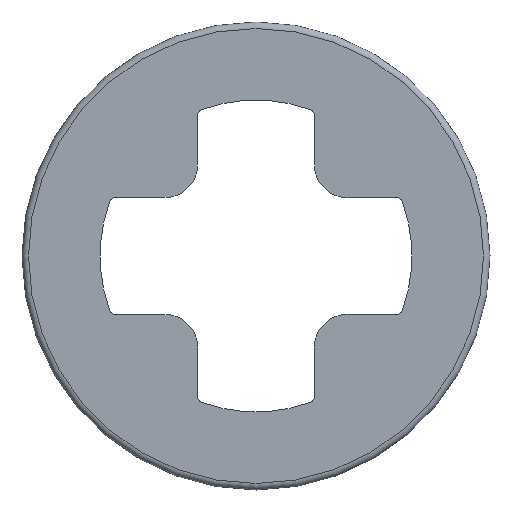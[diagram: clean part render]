
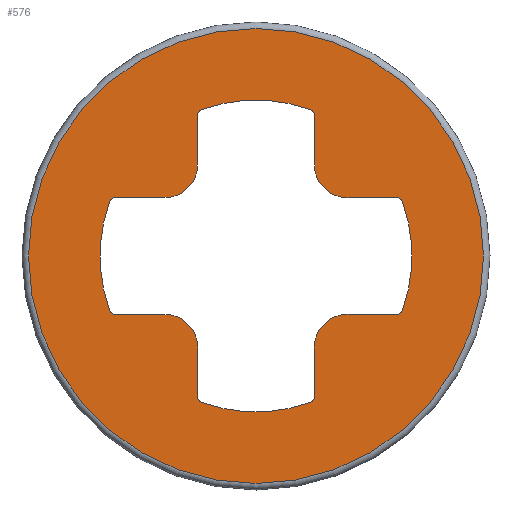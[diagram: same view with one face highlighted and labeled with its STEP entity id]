
A CAD part, front view. The second image highlights one B-rep face of the part: STEP entity #576.
In plain terms, the highlighted planar face has unit normal (0, -1, 0).
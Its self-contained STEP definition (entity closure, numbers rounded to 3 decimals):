
#34=LINE('',#959,#74);
#35=LINE('',#964,#75);
#36=LINE('',#972,#76);
#37=LINE('',#976,#77);
#38=LINE('',#984,#78);
#39=LINE('',#988,#79);
#40=LINE('',#996,#80);
#41=LINE('',#1000,#81);
#74=VECTOR('',#760,1000.);
#75=VECTOR('',#763,1000.);
#76=VECTOR('',#770,1000.);
#77=VECTOR('',#773,1000.);
#78=VECTOR('',#780,1000.);
#79=VECTOR('',#783,1000.);
#80=VECTOR('',#790,1000.);
#81=VECTOR('',#793,1000.);
#107=PLANE('',#645);
#145=ORIENTED_EDGE('',*,*,#309,.T.);
#146=ORIENTED_EDGE('',*,*,#310,.F.);
#147=ORIENTED_EDGE('',*,*,#311,.T.);
#148=ORIENTED_EDGE('',*,*,#312,.F.);
#149=ORIENTED_EDGE('',*,*,#313,.T.);
#150=ORIENTED_EDGE('',*,*,#314,.F.);
#151=ORIENTED_EDGE('',*,*,#315,.T.);
#152=ORIENTED_EDGE('',*,*,#316,.F.);
#153=ORIENTED_EDGE('',*,*,#317,.T.);
#154=ORIENTED_EDGE('',*,*,#318,.F.);
#155=ORIENTED_EDGE('',*,*,#319,.T.);
#156=ORIENTED_EDGE('',*,*,#320,.F.);
#157=ORIENTED_EDGE('',*,*,#321,.T.);
#158=ORIENTED_EDGE('',*,*,#322,.F.);
#159=ORIENTED_EDGE('',*,*,#323,.T.);
#160=ORIENTED_EDGE('',*,*,#324,.F.);
#161=ORIENTED_EDGE('',*,*,#325,.T.);
#162=ORIENTED_EDGE('',*,*,#326,.F.);
#163=ORIENTED_EDGE('',*,*,#327,.T.);
#164=ORIENTED_EDGE('',*,*,#328,.F.);
#165=ORIENTED_EDGE('',*,*,#329,.T.);
#166=ORIENTED_EDGE('',*,*,#330,.F.);
#167=ORIENTED_EDGE('',*,*,#331,.T.);
#168=ORIENTED_EDGE('',*,*,#332,.F.);
#169=ORIENTED_EDGE('',*,*,#333,.T.);
#309=EDGE_CURVE('',#391,#391,#441,.F.);
#310=EDGE_CURVE('',#392,#393,#34,.T.);
#311=EDGE_CURVE('',#392,#394,#442,.F.);
#312=EDGE_CURVE('',#395,#394,#35,.T.);
#313=EDGE_CURVE('',#395,#396,#443,.T.);
#314=EDGE_CURVE('',#397,#396,#444,.T.);
#315=EDGE_CURVE('',#397,#398,#445,.T.);
#316=EDGE_CURVE('',#399,#398,#36,.T.);
#317=EDGE_CURVE('',#399,#400,#446,.F.);
#318=EDGE_CURVE('',#401,#400,#37,.T.);
#319=EDGE_CURVE('',#401,#402,#447,.T.);
#320=EDGE_CURVE('',#403,#402,#448,.T.);
#321=EDGE_CURVE('',#403,#404,#449,.T.);
#322=EDGE_CURVE('',#405,#404,#38,.T.);
#323=EDGE_CURVE('',#405,#406,#450,.F.);
#324=EDGE_CURVE('',#407,#406,#39,.T.);
#325=EDGE_CURVE('',#407,#408,#451,.T.);
#326=EDGE_CURVE('',#409,#408,#452,.T.);
#327=EDGE_CURVE('',#409,#410,#453,.T.);
#328=EDGE_CURVE('',#411,#410,#40,.T.);
#329=EDGE_CURVE('',#411,#412,#454,.F.);
#330=EDGE_CURVE('',#413,#412,#41,.T.);
#331=EDGE_CURVE('',#413,#414,#455,.T.);
#332=EDGE_CURVE('',#415,#414,#456,.T.);
#333=EDGE_CURVE('',#415,#393,#457,.T.);
#391=VERTEX_POINT('',#958);
#392=VERTEX_POINT('',#960);
#393=VERTEX_POINT('',#961);
#394=VERTEX_POINT('',#963);
#395=VERTEX_POINT('',#965);
#396=VERTEX_POINT('',#967);
#397=VERTEX_POINT('',#969);
#398=VERTEX_POINT('',#971);
#399=VERTEX_POINT('',#973);
#400=VERTEX_POINT('',#975);
#401=VERTEX_POINT('',#977);
#402=VERTEX_POINT('',#979);
#403=VERTEX_POINT('',#981);
#404=VERTEX_POINT('',#983);
#405=VERTEX_POINT('',#985);
#406=VERTEX_POINT('',#987);
#407=VERTEX_POINT('',#989);
#408=VERTEX_POINT('',#991);
#409=VERTEX_POINT('',#993);
#410=VERTEX_POINT('',#995);
#411=VERTEX_POINT('',#997);
#412=VERTEX_POINT('',#999);
#413=VERTEX_POINT('',#1001);
#414=VERTEX_POINT('',#1003);
#415=VERTEX_POINT('',#1005);
#441=CIRCLE('',#646,3.5);
#442=CIRCLE('',#647,0.5);
#443=CIRCLE('',#648,0.1);
#444=CIRCLE('',#649,2.4);
#445=CIRCLE('',#650,0.1);
#446=CIRCLE('',#651,0.5);
#447=CIRCLE('',#652,0.1);
#448=CIRCLE('',#653,2.4);
#449=CIRCLE('',#654,0.1);
#450=CIRCLE('',#655,0.5);
#451=CIRCLE('',#656,0.1);
#452=CIRCLE('',#657,2.4);
#453=CIRCLE('',#658,0.1);
#454=CIRCLE('',#659,0.5);
#455=CIRCLE('',#660,0.1);
#456=CIRCLE('',#661,2.4);
#457=CIRCLE('',#662,0.1);
#468=EDGE_LOOP('',(#145));
#469=EDGE_LOOP('',(#146,#147,#148,#149,#150,#151,#152,#153,#154,#155,#156,
#157,#158,#159,#160,#161,#162,#163,#164,#165,#166,#167,#168,#169));
#514=FACE_BOUND('',#468,.T.);
#515=FACE_BOUND('',#469,.T.);
#576=ADVANCED_FACE('',(#514,#515),#107,.F.);
#645=AXIS2_PLACEMENT_3D('',#956,#756,#757);
#646=AXIS2_PLACEMENT_3D('',#957,#758,#759);
#647=AXIS2_PLACEMENT_3D('',#962,#761,#762);
#648=AXIS2_PLACEMENT_3D('',#966,#764,#765);
#649=AXIS2_PLACEMENT_3D('',#968,#766,#767);
#650=AXIS2_PLACEMENT_3D('',#970,#768,#769);
#651=AXIS2_PLACEMENT_3D('',#974,#771,#772);
#652=AXIS2_PLACEMENT_3D('',#978,#774,#775);
#653=AXIS2_PLACEMENT_3D('',#980,#776,#777);
#654=AXIS2_PLACEMENT_3D('',#982,#778,#779);
#655=AXIS2_PLACEMENT_3D('',#986,#781,#782);
#656=AXIS2_PLACEMENT_3D('',#990,#784,#785);
#657=AXIS2_PLACEMENT_3D('',#992,#786,#787);
#658=AXIS2_PLACEMENT_3D('',#994,#788,#789);
#659=AXIS2_PLACEMENT_3D('',#998,#791,#792);
#660=AXIS2_PLACEMENT_3D('',#1002,#794,#795);
#661=AXIS2_PLACEMENT_3D('',#1004,#796,#797);
#662=AXIS2_PLACEMENT_3D('',#1006,#798,#799);
#756=DIRECTION('',(0.,1.,0.));
#757=DIRECTION('',(0.,0.,1.));
#758=DIRECTION('',(0.,1.,0.));
#759=DIRECTION('',(0.,0.,1.));
#760=DIRECTION('',(0.,0.,-1.));
#761=DIRECTION('',(0.,1.,0.));
#762=DIRECTION('',(0.,0.,1.));
#763=DIRECTION('',(1.,0.,0.));
#764=DIRECTION('',(0.,1.,0.));
#765=DIRECTION('',(0.,0.,1.));
#766=DIRECTION('',(0.,-1.,0.));
#767=DIRECTION('',(1.,0.,0.));
#768=DIRECTION('',(0.,1.,0.));
#769=DIRECTION('',(0.,0.,1.));
#770=DIRECTION('',(-1.,0.,0.));
#771=DIRECTION('',(0.,1.,0.));
#772=DIRECTION('',(0.,0.,1.));
#773=DIRECTION('',(0.,0.,-1.));
#774=DIRECTION('',(0.,1.,0.));
#775=DIRECTION('',(0.,0.,1.));
#776=DIRECTION('',(0.,-1.,0.));
#777=DIRECTION('',(1.,0.,0.));
#778=DIRECTION('',(0.,1.,0.));
#779=DIRECTION('',(0.,0.,1.));
#780=DIRECTION('',(0.,0.,1.));
#781=DIRECTION('',(0.,1.,0.));
#782=DIRECTION('',(0.,0.,1.));
#783=DIRECTION('',(-1.,0.,0.));
#784=DIRECTION('',(0.,1.,0.));
#785=DIRECTION('',(0.,0.,1.));
#786=DIRECTION('',(0.,-1.,0.));
#787=DIRECTION('',(-1.,0.,0.));
#788=DIRECTION('',(0.,1.,0.));
#789=DIRECTION('',(0.,0.,1.));
#790=DIRECTION('',(1.,0.,0.));
#791=DIRECTION('',(0.,1.,0.));
#792=DIRECTION('',(0.,0.,1.));
#793=DIRECTION('',(0.,0.,1.));
#794=DIRECTION('',(0.,1.,0.));
#795=DIRECTION('',(0.,0.,1.));
#796=DIRECTION('',(0.,-1.,0.));
#797=DIRECTION('',(1.,0.,0.));
#798=DIRECTION('',(0.,1.,0.));
#799=DIRECTION('',(0.,0.,1.));
#956=CARTESIAN_POINT('',(0.,0.,0.));
#957=CARTESIAN_POINT('',(0.,0.,0.));
#958=CARTESIAN_POINT('',(0.,0.,3.5));
#959=CARTESIAN_POINT('',(-0.9,0.,-0.9));
#960=CARTESIAN_POINT('',(-0.9,0.,-1.4));
#961=CARTESIAN_POINT('',(-0.9,0.,-2.156));
#962=CARTESIAN_POINT('',(-1.4,0.,-1.4));
#963=CARTESIAN_POINT('',(-1.4,0.,-0.9));
#964=CARTESIAN_POINT('',(-2.225,0.,-0.9));
#965=CARTESIAN_POINT('',(-2.156,0.,-0.9));
#966=CARTESIAN_POINT('',(-2.156,0.,-0.8));
#967=CARTESIAN_POINT('',(-2.25,0.,-0.835));
#968=CARTESIAN_POINT('',(0.,0.,0.));
#969=CARTESIAN_POINT('',(-2.25,0.,0.835));
#970=CARTESIAN_POINT('',(-2.156,0.,0.8));
#971=CARTESIAN_POINT('',(-2.156,0.,0.9));
#972=CARTESIAN_POINT('',(-0.9,0.,0.9));
#973=CARTESIAN_POINT('',(-1.4,0.,0.9));
#974=CARTESIAN_POINT('',(-1.4,0.,1.4));
#975=CARTESIAN_POINT('',(-0.9,0.,1.4));
#976=CARTESIAN_POINT('',(-0.9,0.,2.225));
#977=CARTESIAN_POINT('',(-0.9,0.,2.156));
#978=CARTESIAN_POINT('',(-0.8,0.,2.156));
#979=CARTESIAN_POINT('',(-0.835,0.,2.25));
#980=CARTESIAN_POINT('',(0.,0.,0.));
#981=CARTESIAN_POINT('',(0.835,0.,2.25));
#982=CARTESIAN_POINT('',(0.8,0.,2.156));
#983=CARTESIAN_POINT('',(0.9,0.,2.156));
#984=CARTESIAN_POINT('',(0.9,0.,0.9));
#985=CARTESIAN_POINT('',(0.9,0.,1.4));
#986=CARTESIAN_POINT('',(1.4,0.,1.4));
#987=CARTESIAN_POINT('',(1.4,0.,0.9));
#988=CARTESIAN_POINT('',(2.225,0.,0.9));
#989=CARTESIAN_POINT('',(2.156,0.,0.9));
#990=CARTESIAN_POINT('',(2.156,0.,0.8));
#991=CARTESIAN_POINT('',(2.25,0.,0.835));
#992=CARTESIAN_POINT('',(0.,0.,0.));
#993=CARTESIAN_POINT('',(2.25,0.,-0.835));
#994=CARTESIAN_POINT('',(2.156,0.,-0.8));
#995=CARTESIAN_POINT('',(2.156,0.,-0.9));
#996=CARTESIAN_POINT('',(0.9,0.,-0.9));
#997=CARTESIAN_POINT('',(1.4,0.,-0.9));
#998=CARTESIAN_POINT('',(1.4,0.,-1.4));
#999=CARTESIAN_POINT('',(0.9,0.,-1.4));
#1000=CARTESIAN_POINT('',(0.9,0.,-2.225));
#1001=CARTESIAN_POINT('',(0.9,0.,-2.156));
#1002=CARTESIAN_POINT('',(0.8,0.,-2.156));
#1003=CARTESIAN_POINT('',(0.835,0.,-2.25));
#1004=CARTESIAN_POINT('',(0.,0.,0.));
#1005=CARTESIAN_POINT('',(-0.835,0.,-2.25));
#1006=CARTESIAN_POINT('',(-0.8,0.,-2.156));
